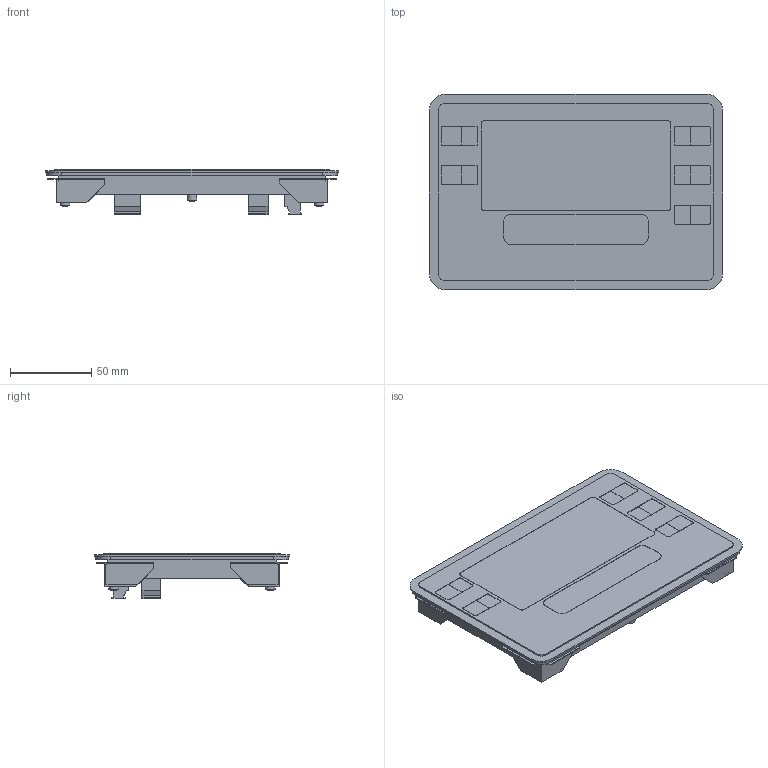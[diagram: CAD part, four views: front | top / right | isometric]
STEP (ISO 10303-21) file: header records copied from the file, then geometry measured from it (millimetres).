
FILE_DESCRIPTION(/* description */ ('STEP AP203'),/* implementation_level */ '2;1');
FILE_NAME(/* name */ '3109CS',/* time_stamp */ '2023-10-23T13:56:52+02:00',/* author */ ('License CC BY-ND 4.0'),/* organization */ ('CADENAS'),/* preprocessor_version */ 'ST-DEVELOPER v19.3',/* originating_system */ 'PARTsolutions',/* authorisation */ ' ');
FILE_SCHEMA (('CONFIG_CONTROL_DESIGN'));
Length unit declared in the file: millimetre
Products named in the file (3): 3109CS; 31XXCS_CLIP; 3109CS_BODY
Assembly tree (5 placements, depth 2):
  3109CS
    31XXCS_CLIP  x4
    3109CS_BODY
Bounding box: 180 x 120 x 27.7 mm (x, y, z)
Volume: 280188.2 mm3; surface area: 67071.5 mm2
Topology: 5 solids, 5 shells, 439 faces, 1174 edges, 778 vertices
Faces by surface type: plane 331, cylinder 90, cone 12, sphere 6
Full cylindrical faces by diameter (mm): 2 x2, 2.459 x4, 3 x4, 3.5 x4, 4 x4, 4.8 x4, 6 x6
Entity records: 11029 total; most frequent: CARTESIAN_POINT 1637, DIRECTION 1575, ORIENTED_EDGE 1532, EDGE_CURVE 766, LINE 557, VECTOR 557, VERTEX_POINT 527, AXIS2_PLACEMENT_3D 509
